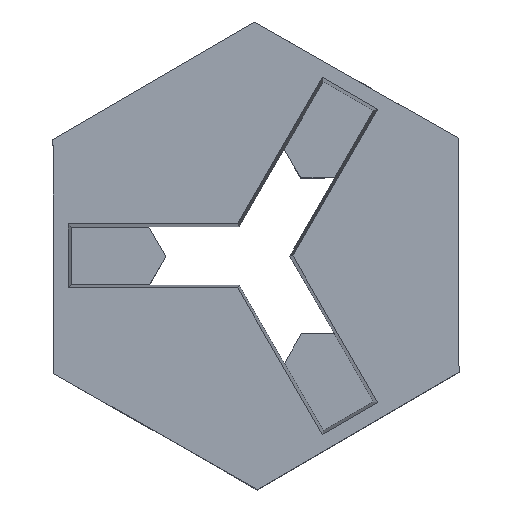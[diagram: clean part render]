
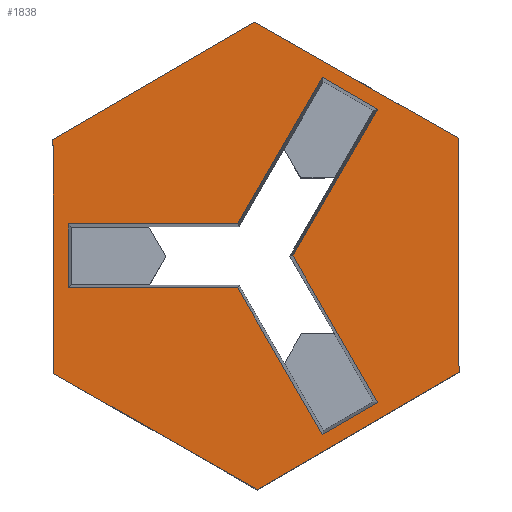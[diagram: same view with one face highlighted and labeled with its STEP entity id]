
A CAD part, top view. The second image highlights one B-rep face of the part: STEP entity #1838.
In plain terms, the highlighted planar face has unit normal (0, 0, 1).
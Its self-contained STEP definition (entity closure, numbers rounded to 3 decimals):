
#60=FACE_BOUND('',#300,.T.);
#184=FACE_OUTER_BOUND('',#299,.T.);
#299=EDGE_LOOP('',(#1648,#1649,#1650,#1651,#1652,#1653));
#300=EDGE_LOOP('',(#1654,#1655,#1656,#1657,#1658,#1659,#1660,#1661,#1662));
#412=LINE('',#2702,#634);
#416=LINE('',#2710,#638);
#436=LINE('',#2751,#658);
#438=LINE('',#2755,#660);
#442=LINE('',#2763,#664);
#446=LINE('',#2770,#668);
#448=LINE('',#2773,#670);
#449=LINE('',#2776,#671);
#453=LINE('',#2782,#675);
#485=LINE('',#2878,#707);
#515=LINE('',#2967,#737);
#518=LINE('',#2972,#740);
#519=LINE('',#2974,#741);
#520=LINE('',#2977,#742);
#522=LINE('',#2980,#744);
#634=VECTOR('',#2188,10.);
#638=VECTOR('',#2194,10.);
#658=VECTOR('',#2222,10.);
#660=VECTOR('',#2226,10.);
#664=VECTOR('',#2232,10.);
#668=VECTOR('',#2238,10.);
#670=VECTOR('',#2242,10.);
#671=VECTOR('',#2245,10.);
#675=VECTOR('',#2251,10.);
#707=VECTOR('',#2343,10.);
#737=VECTOR('',#2449,10.);
#740=VECTOR('',#2454,10.);
#741=VECTOR('',#2457,10.);
#742=VECTOR('',#2460,10.);
#744=VECTOR('',#2464,10.);
#820=VERTEX_POINT('',#2699);
#821=VERTEX_POINT('',#2701);
#824=VERTEX_POINT('',#2709);
#840=VERTEX_POINT('',#2748);
#841=VERTEX_POINT('',#2750);
#842=VERTEX_POINT('',#2754);
#845=VERTEX_POINT('',#2762);
#847=VERTEX_POINT('',#2769);
#848=VERTEX_POINT('',#2775);
#882=VERTEX_POINT('',#2875);
#883=VERTEX_POINT('',#2877);
#903=VERTEX_POINT('',#2964);
#904=VERTEX_POINT('',#2966);
#905=VERTEX_POINT('',#2970);
#906=VERTEX_POINT('',#2976);
#1018=EDGE_CURVE('',#821,#820,#412,.T.);
#1022=EDGE_CURVE('',#824,#821,#416,.T.);
#1042=EDGE_CURVE('',#841,#840,#436,.T.);
#1044=EDGE_CURVE('',#842,#841,#438,.T.);
#1048=EDGE_CURVE('',#845,#842,#442,.T.);
#1052=EDGE_CURVE('',#847,#845,#446,.T.);
#1054=EDGE_CURVE('',#820,#847,#448,.T.);
#1055=EDGE_CURVE('',#848,#824,#449,.T.);
#1059=EDGE_CURVE('',#840,#848,#453,.T.);
#1107=EDGE_CURVE('',#883,#882,#485,.T.);
#1151=EDGE_CURVE('',#904,#903,#515,.T.);
#1154=EDGE_CURVE('',#903,#905,#518,.T.);
#1155=EDGE_CURVE('',#905,#883,#519,.T.);
#1156=EDGE_CURVE('',#906,#904,#520,.T.);
#1158=EDGE_CURVE('',#882,#906,#522,.T.);
#1648=ORIENTED_EDGE('',*,*,#1155,.T.);
#1649=ORIENTED_EDGE('',*,*,#1107,.T.);
#1650=ORIENTED_EDGE('',*,*,#1158,.T.);
#1651=ORIENTED_EDGE('',*,*,#1156,.T.);
#1652=ORIENTED_EDGE('',*,*,#1151,.T.);
#1653=ORIENTED_EDGE('',*,*,#1154,.T.);
#1654=ORIENTED_EDGE('',*,*,#1042,.T.);
#1655=ORIENTED_EDGE('',*,*,#1059,.T.);
#1656=ORIENTED_EDGE('',*,*,#1055,.T.);
#1657=ORIENTED_EDGE('',*,*,#1022,.T.);
#1658=ORIENTED_EDGE('',*,*,#1018,.T.);
#1659=ORIENTED_EDGE('',*,*,#1054,.T.);
#1660=ORIENTED_EDGE('',*,*,#1052,.T.);
#1661=ORIENTED_EDGE('',*,*,#1048,.T.);
#1662=ORIENTED_EDGE('',*,*,#1044,.T.);
#1738=PLANE('',#1982);
#1838=ADVANCED_FACE('',(#184,#60),#1738,.T.);
#1982=AXIS2_PLACEMENT_3D('',#2981,#2465,#2466);
#2188=DIRECTION('',(0.5,-0.866,0.));
#2194=DIRECTION('',(-0.5,-0.866,0.));
#2222=DIRECTION('',(1.,0.,0.));
#2226=DIRECTION('',(0.,1.,0.));
#2232=DIRECTION('',(-1.,0.,0.));
#2238=DIRECTION('',(-0.5,0.866,0.));
#2242=DIRECTION('',(-0.866,-0.5,0.));
#2245=DIRECTION('',(0.866,-0.5,0.));
#2251=DIRECTION('',(0.5,0.866,0.));
#2343=DIRECTION('',(0.868,-0.496,0.));
#2449=DIRECTION('',(-0.868,0.496,0.));
#2454=DIRECTION('',(-0.864,-0.504,0.));
#2457=DIRECTION('',(0.004,-1.,0.));
#2460=DIRECTION('',(-0.004,1.,0.));
#2464=DIRECTION('',(0.864,0.504,0.));
#2465=DIRECTION('center_axis',(0.,0.,1.));
#2466=DIRECTION('ref_axis',(1.,0.,0.));
#2699=CARTESIAN_POINT('',(250.3,-9.411,15.));
#2701=CARTESIAN_POINT('',(244.867,0.,15.));
#2702=CARTESIAN_POINT('',(247.275,-4.17,15.));
#2709=CARTESIAN_POINT('',(250.3,9.411,15.));
#2710=CARTESIAN_POINT('',(244.565,-0.524,15.));
#2748=CARTESIAN_POINT('',(241.316,2.05,15.));
#2750=CARTESIAN_POINT('',(230.45,2.05,15.));
#2751=CARTESIAN_POINT('',(241.923,2.05,15.));
#2754=CARTESIAN_POINT('',(230.45,-2.05,15.));
#2755=CARTESIAN_POINT('',(230.45,1.002,15.));
#2762=CARTESIAN_POINT('',(241.316,-2.05,15.));
#2763=CARTESIAN_POINT('',(236.5,-2.05,15.));
#2769=CARTESIAN_POINT('',(246.75,-11.461,15.));
#2770=CARTESIAN_POINT('',(241.013,-1.524,15.));
#2773=CARTESIAN_POINT('',(247.66,-10.935,15.));
#2775=CARTESIAN_POINT('',(246.75,11.461,15.));
#2776=CARTESIAN_POINT('',(249.39,9.936,15.));
#2782=CARTESIAN_POINT('',(243.725,6.222,15.));
#2875=CARTESIAN_POINT('',(242.565,-14.997,15.));
#2877=CARTESIAN_POINT('',(229.543,-7.553,15.));
#2878=CARTESIAN_POINT('',(229.543,-7.553,15.));
#2964=CARTESIAN_POINT('',(242.435,15.003,15.));
#2966=CARTESIAN_POINT('',(255.458,7.559,15.));
#2967=CARTESIAN_POINT('',(255.458,7.559,15.));
#2970=CARTESIAN_POINT('',(229.477,7.446,15.));
#2972=CARTESIAN_POINT('',(242.435,15.003,15.));
#2974=CARTESIAN_POINT('',(229.477,7.446,15.));
#2976=CARTESIAN_POINT('',(255.523,-7.44,15.));
#2977=CARTESIAN_POINT('',(255.523,-7.44,15.));
#2980=CARTESIAN_POINT('',(242.565,-14.997,15.));
#2981=CARTESIAN_POINT('Origin',(242.5,0.003,15.));
